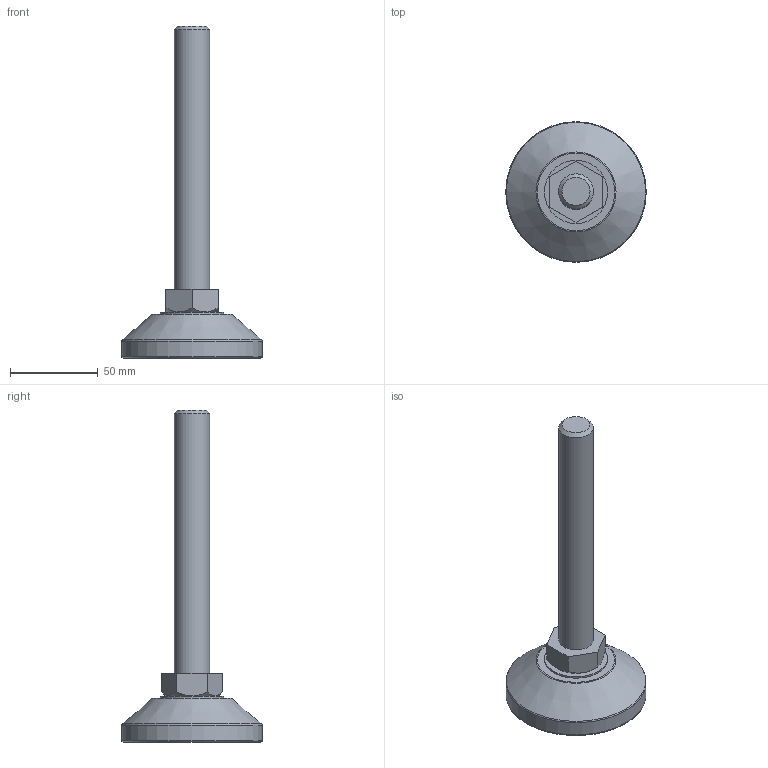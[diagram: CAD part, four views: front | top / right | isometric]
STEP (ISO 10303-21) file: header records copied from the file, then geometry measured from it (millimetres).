
FILE_DESCRIPTION(/* description */ (''),/* implementation_level */ '2;1');
FILE_NAME(/* name */ 'D:\조절자\F\F-M20-150L.stp',/* time_stamp */ '2016-03-14T14:31:08+09:00',/* author */ ('GS-DT-1-001'),/* organization */ (''),/* preprocessor_version */ 'ST-DEVELOPER v15.6',/* originating_system */ 'Autodesk Inventor LT ',/* authorisation */ '');
FILE_SCHEMA (('AUTOMOTIVE_DESIGN { 1 0 10303 214 3 1 1 }'));
Length unit declared in the file: millimetre
Products named in the file (1): F-M20-150L
Bounding box: 80 x 80 x 189 mm (x, y, z)
Volume: 125029.9 mm3; surface area: 31966.7 mm2
Topology: 4 solids, 4 shells, 46 faces, 82 edges, 51 vertices
Faces by surface type: plane 21, cylinder 13, cone 8, torus 4
Full cylindrical faces by diameter (mm): 6.912 x1, 8 x1, 8.2 x1, 8.3 x1, 16 x1, 20 x1, 36 x1, 50 x1, 57 x1, 61 x1, 71 x1, 75 x1, 80 x1
Entity records: 995 total; most frequent: DIRECTION 180, CARTESIAN_POINT 163, ORIENTED_EDGE 110, AXIS2_PLACEMENT_3D 84, EDGE_LOOP 82, EDGE_CURVE 55, VERTEX_POINT 49, FACE_OUTER_BOUND 46
